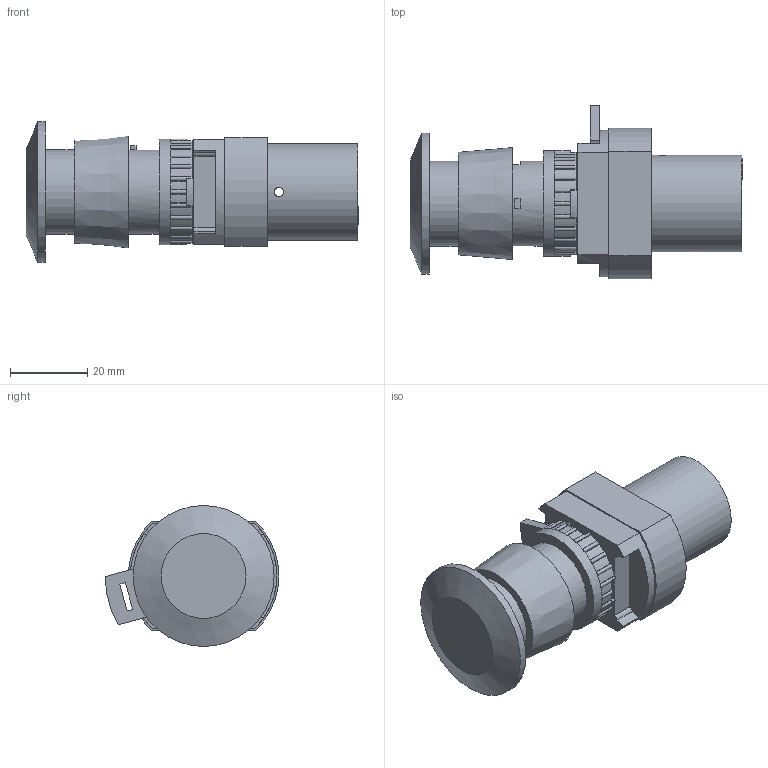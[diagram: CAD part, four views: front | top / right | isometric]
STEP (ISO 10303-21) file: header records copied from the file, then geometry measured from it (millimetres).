
FILE_DESCRIPTION (( 'STEP AP214' ), '1' );
FILE_NAME ('18-T-23-012---T-30-310_Airtec.step', '2018-11-15T13:10:03', ( '' ), ( '' ), 'SwSTEP 2.0', 'SolidWorks 2010', '' );
FILE_SCHEMA (( 'AUTOMOTIVE_DESIGN' ));
Length unit declared in the file: millimetre
Products named in the file (3): 18-T-23-012-Airtec; T-30-310-Airtec; 18-T-23-012---T-30-310_Airtec
Assembly tree (2 placements, depth 2):
  18-T-23-012---T-30-310_Airtec
    18-T-23-012-Airtec
    T-30-310-Airtec
Bounding box: 86 x 45 x 36.5 mm (x, y, z)
Volume: 50195.1 mm3; surface area: 14709.3 mm2
Topology: 2 solids, 2 shells, 260 faces, 704 edges, 460 vertices
Faces by surface type: plane 128, cylinder 126, cone 5, bspline 1
Full cylindrical faces by diameter (mm): 2.4 x1, 4.134 x2, 5 x1, 9 x1, 16 x1, 20 x1, 22 x2, 25 x1, 27.4 x1, 36.5 x1
Entity records: 8320 total; most frequent: DIRECTION 1527, CARTESIAN_POINT 1486, ORIENTED_EDGE 1354, EDGE_CURVE 677, AXIS2_PLACEMENT_3D 588, VERTEX_POINT 451, VECTOR 351, LINE 351
